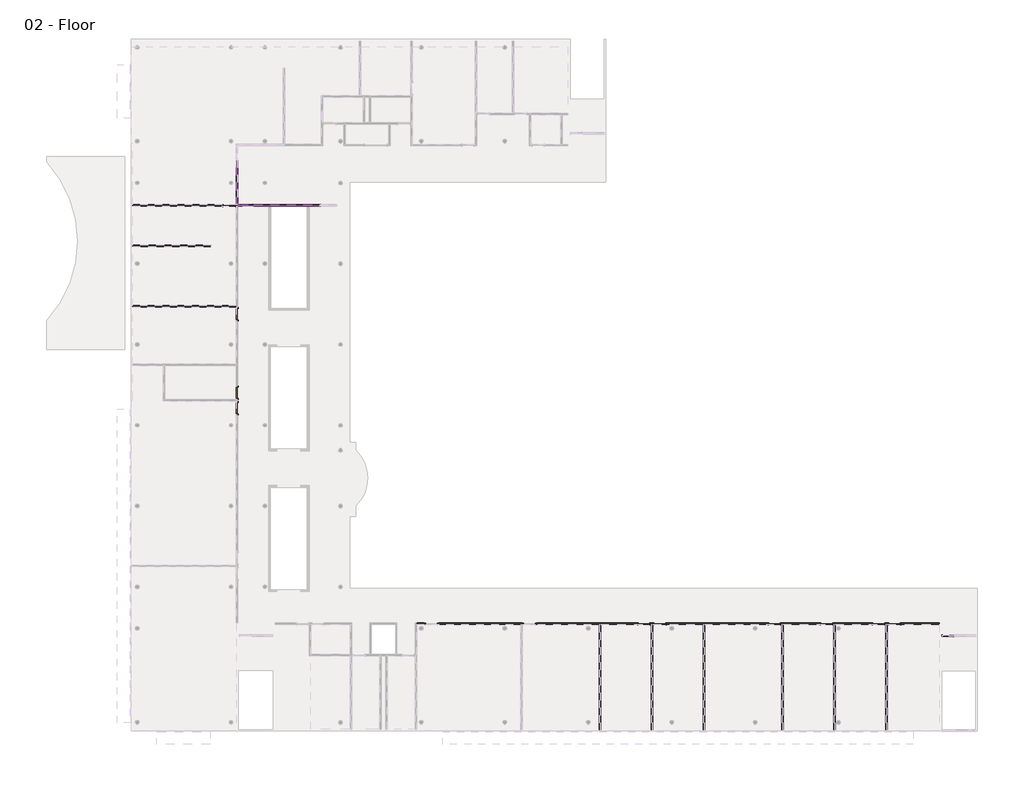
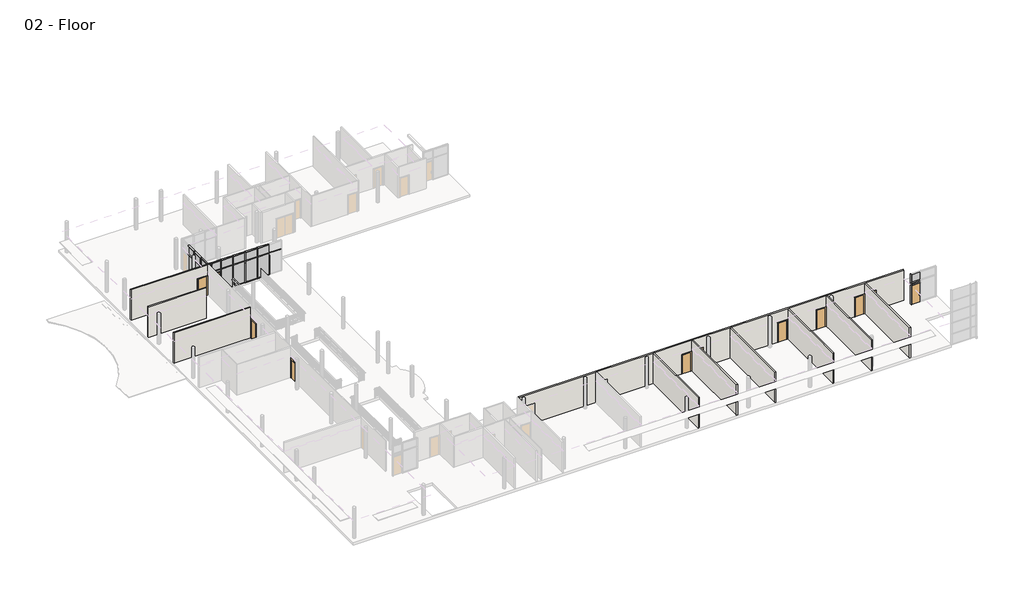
# One storey, part 2 of 5: 58 members, 20 plates, 12 doors, 10 walls.
"""IFC4 building model written with IfcOpenShell, lengths in millimetres."""

from ifc_helpers import new_model, si_unit, frame, origin, place, context, project, spatial, polyline, outline, extrude, faceted_brep, transform, mapped, element, save
from components import curtain_wall_sgl_glass_curtain_wall_sgl_glass_ab2568d1, curtain_wall_sgl_glass_curtain_wall_sgl_glass_c2d4b377, door_305aa2a5, door_e5f9f3c4, member_18e22e2d, member_9193c932, member_28f0a790, member_2c3f20f2, member_9aff912a, member_69c8e218, member_e80433b6, member_c4de40ee, member_a715cb85, member_410c6227, member_73c23c35, member_6186cc23, member_5d67b9fc, member_c327c56d, member_a50b3cda, member_dd5c6200, member_38b8e9cb, system_panel_glazed_8c2c847a, system_panel_glazed_f4c55b59, system_panel_glazed_5b8ca2f9, system_panel_glazed_63e32c76, system_panel_glazed_72fe8651, system_panel_glazed_06645575, system_panel_glazed_b962cb7b, system_panel_glazed_4de51809, system_panel_glazed_1fc46e14, system_panel_glazed_011a4f1d

model = new_model("IFC4")

# Units and contexts
model_context = context("Model", 3, world=origin())
ifc_project = project(units=[si_unit("LENGTHUNIT", "METRE", prefix="MILLI")], contexts=[model_context])

# Site, building, storey
site = spatial("IfcSite", under=ifc_project)
building = spatial("IfcBuilding", under=site)
storey = spatial("IfcBuildingStorey", under=building, Name="02 - Floor", Elevation=3657.6)

# Doors
placement = place(None, origin())
curtain_wall_sgl_glass_curtain_wall_sgl_glass_shape = curtain_wall_sgl_glass_curtain_wall_sgl_glass_ab2568d1(model_context)
element("IfcDoor", 1, ObjectType="Curtain Wall Sgl Glass : Curtain Wall Sgl Glass", at=placement, inside=storey, context=model_context, shape_type="MappedRepresentation", body=[
    mapped(curtain_wall_sgl_glass_curtain_wall_sgl_glass_shape, transform((63869.2207476, 7356.4, 3657.6), x_axis=(-1.0, 0.0, 0.0), y_axis=(0.0, -1.0, 0.0), z_axis=(0.0, 0.0, 1.0))),
])
curtain_wall_sgl_glass_curtain_wall_sgl_glass_2_shape = curtain_wall_sgl_glass_curtain_wall_sgl_glass_c2d4b377(model_context)
element("IfcDoor", 2, ObjectType="Curtain Wall Sgl Glass : Curtain Wall Sgl Glass", at=placement, inside=storey, context=model_context, shape_type="MappedRepresentation", body=[
    mapped(curtain_wall_sgl_glass_curtain_wall_sgl_glass_2_shape, transform((9279.6358763, 40897.1, 3657.6), x_axis=(-1.0, 0.0, 0.0), y_axis=(0.0, -1.0, 0.0), z_axis=(0.0, 0.0, 1.0))),
])
door_shape = door_305aa2a5(model_context)
element("IfcDoor", 3, ObjectType="Single-Flush : 36\" x 84\"", at=placement, inside=storey, context=model_context, shape_type="MappedRepresentation", body=[
    mapped(door_shape, transform((8427.3707476, 26304.8, 3657.6), x_axis=(0.0, -1.0, 0.0), y_axis=(1.0, 0.0, 0.0), z_axis=(0.0, 0.0, 1.0))),
])
element("IfcDoor", 4, ObjectType="Single-Flush : 36\" x 84\"", at=placement, inside=storey, context=model_context, shape_type="MappedRepresentation", body=[
    mapped(door_shape, transform((40145.6207476, 8277.15, 3657.6), x_axis=(1.0, 0.0, 0.0), y_axis=(0.0, 1.0, 0.0), z_axis=(0.0, 0.0, 1.0))),
])
element("IfcDoor", 5, ObjectType="Single-Flush : 36\" x 84\"", at=placement, inside=storey, context=model_context, shape_type="MappedRepresentation", body=[
    mapped(door_shape, transform((50305.6207476, 8277.15, 3657.6), x_axis=(1.0, 0.0, 0.0), y_axis=(0.0, 1.0, 0.0), z_axis=(0.0, 0.0, 1.0))),
])
element("IfcDoor", 6, ObjectType="Single-Flush : 36\" x 84\"", at=placement, inside=storey, context=model_context, shape_type="MappedRepresentation", body=[
    mapped(door_shape, transform((58433.6207476, 8277.15, 3657.6), x_axis=(1.0, 0.0, 0.0), y_axis=(0.0, 1.0, 0.0), z_axis=(0.0, 0.0, 1.0))),
])
element("IfcDoor", 7, ObjectType="Single-Flush : 36\" x 84\"", at=placement, inside=storey, context=model_context, shape_type="MappedRepresentation", body=[
    mapped(door_shape, transform((54369.6207476, 8277.15, 3657.6), x_axis=(1.0, 0.0, 0.0), y_axis=(0.0, 1.0, 0.0), z_axis=(0.0, 0.0, 1.0))),
])
element("IfcDoor", 8, ObjectType="Single-Flush : 36\" x 84\"", at=placement, inside=storey, context=model_context, shape_type="MappedRepresentation", body=[
    mapped(door_shape, transform((7811.4207476, 40897.1, 3657.6), x_axis=(1.0, 0.0, 0.0), y_axis=(0.0, 1.0, 0.0), z_axis=(0.0, 0.0, 1.0))),
])
door_2_shape = door_e5f9f3c4(model_context)
element("IfcDoor", 9, ObjectType="Single-Flush : 36\" x 84\"", at=placement, inside=storey, context=model_context, shape_type="MappedRepresentation", body=[
    mapped(door_2_shape, transform((8427.3707476, 32413.5, 3657.6), x_axis=(0.0, 1.0, 0.0), y_axis=(-1.0, 0.0, 0.0), z_axis=(0.0, 0.0, 1.0))),
])
element("IfcDoor", 10, ObjectType="Single-Flush : 36\" x 84\"", at=placement, inside=storey, context=model_context, shape_type="MappedRepresentation", body=[
    mapped(door_2_shape, transform((8427.3707476, 25085.6, 3657.6), x_axis=(0.0, 1.0, 0.0), y_axis=(-1.0, 0.0, 0.0), z_axis=(0.0, 0.0, 1.0))),
])
element("IfcDoor", 11, ObjectType="Single-Flush : 36\" x 84\"", at=placement, inside=storey, context=model_context, shape_type="MappedRepresentation", body=[
    mapped(door_2_shape, transform((41364.8207476, 8277.15, 3657.6), x_axis=(-1.0, 0.0, 0.0), y_axis=(0.0, -1.0, 0.0), z_axis=(0.0, 0.0, 1.0))),
])
element("IfcDoor", 12, ObjectType="Single-Flush : 36\" x 84\"", at=placement, inside=storey, context=model_context, shape_type="MappedRepresentation", body=[
    mapped(door_2_shape, transform((59652.8207476, 8277.15, 3657.6), x_axis=(-1.0, 0.0, 0.0), y_axis=(0.0, -1.0, 0.0), z_axis=(0.0, 0.0, 1.0))),
])

# Members
member_shape = member_18e22e2d(model_context)
element("IfcMember", 13, ObjectType="Rectangular Mullion : 2.5\" x 5\" rectangular", at=placement, inside=storey, context=model_context, shape_type="MappedRepresentation", body=[
    mapped(member_shape, transform((13620.7812623, 40897.1, 6096.0), x_axis=(-1.0, 0.0, 0.0), y_axis=(0.0, 1.0, 0.0), z_axis=(0.0, 0.0, -1.0))),
])
element("IfcMember", 14, ObjectType="Rectangular Mullion : 2.5\" x 5\" rectangular", at=placement, inside=storey, context=model_context, shape_type="MappedRepresentation", body=[
    mapped(member_shape, transform((12336.7161336, 40897.1, 6096.0), x_axis=(-1.0, 0.0, 0.0), y_axis=(0.0, 1.0, 0.0), z_axis=(0.0, 0.0, -1.0))),
])
element("IfcMember", 15, ObjectType="Rectangular Mullion : 2.5\" x 5\" rectangular", at=placement, inside=storey, context=model_context, shape_type="MappedRepresentation", body=[
    mapped(member_shape, transform((11052.651005, 40897.1, 6096.0), x_axis=(-1.0, 0.0, 0.0), y_axis=(0.0, 1.0, 0.0), z_axis=(0.0, 0.0, -1.0))),
])
element("IfcMember", 16, ObjectType="Rectangular Mullion : 2.5\" x 5\" rectangular", at=placement, inside=storey, context=model_context, shape_type="MappedRepresentation", body=[
    mapped(member_shape, transform((9768.5858763, 40897.1, 6096.0), x_axis=(-1.0, 0.0, 0.0), y_axis=(0.0, 1.0, 0.0), z_axis=(0.0, 0.0, -1.0))),
])
element("IfcMember", 17, ObjectType="Rectangular Mullion : 2.5\" x 5\" rectangular", at=placement, inside=storey, context=model_context, shape_type="MappedRepresentation", body=[
    mapped(member_shape, transform((8421.0207476, 43284.7, 6096.0), x_axis=(0.0, -1.0, 0.0), y_axis=(-1.0, 0.0, 0.0), z_axis=(0.0, 0.0, -1.0))),
])
element("IfcMember", 18, ObjectType="Rectangular Mullion : 2.5\" x 5\" rectangular", at=placement, inside=storey, context=model_context, shape_type="MappedRepresentation", body=[
    mapped(member_shape, transform((8421.0207476, 42122.65, 6096.0), x_axis=(0.0, -1.0, 0.0), y_axis=(-1.0, 0.0, 0.0), z_axis=(0.0, 0.0, -1.0))),
])
element("IfcMember", 19, ObjectType="Rectangular Mullion : 2.5\" x 5\" rectangular", at=placement, inside=storey, context=model_context, shape_type="MappedRepresentation", body=[
    mapped(member_shape, transform((8790.6858763, 40897.1, 6096.0), x_axis=(-1.0, 0.0, 0.0), y_axis=(0.0, 1.0, 0.0), z_axis=(0.0, 0.0, -1.0))),
])
member_2_shape = member_9193c932(model_context)
element("IfcMember", 20, ObjectType="Rectangular Mullion : 2.5\" x 5\" rectangular", at=placement, inside=storey, context=model_context, shape_type="MappedRepresentation", body=[
    mapped(member_2_shape, transform((63348.5207476, 7356.4, 7061.2), x_axis=(-1.0, 0.0, 0.0), y_axis=(0.0, -1.0, 0.0), z_axis=(0.0, 0.0, 1.0))),
])
element("IfcMember", 21, ObjectType="Rectangular Mullion : 2.5\" x 5\" rectangular", at=placement, inside=storey, context=model_context, shape_type="MappedRepresentation", body=[
    mapped(member_2_shape, transform((8484.5207476, 40897.1, 6096.0), x_axis=(-1.0, 0.0, 0.0), y_axis=(0.0, 1.0, 0.0), z_axis=(0.0, 0.0, -1.0))),
])
element("IfcMember", 22, ObjectType="Rectangular Mullion : 2.5\" x 5\" rectangular", at=placement, inside=storey, context=model_context, shape_type="MappedRepresentation", body=[
    mapped(member_2_shape, transform((8421.0207476, 40960.6, 6096.0), x_axis=(0.0, -1.0, 0.0), y_axis=(-1.0, 0.0, 0.0), z_axis=(0.0, 0.0, -1.0))),
])
member_3_shape = member_28f0a790(model_context)
element("IfcMember", 23, ObjectType="Rectangular Mullion : 2.5\" x 5\" rectangular", at=placement, inside=storey, context=model_context, shape_type="MappedRepresentation", body=[
    mapped(member_3_shape, transform((13652.5312623, 40897.1, 7061.2), x_axis=(0.0, 0.0, 1.0), y_axis=(0.0, 1.0, 0.0), z_axis=(-1.0, 0.0, 0.0))),
])
element("IfcMember", 24, ObjectType="Rectangular Mullion : 2.5\" x 5\" rectangular", at=placement, inside=storey, context=model_context, shape_type="MappedRepresentation", body=[
    mapped(member_3_shape, transform((12368.4661336, 40897.1, 7061.2), x_axis=(0.0, 0.0, 1.0), y_axis=(0.0, 1.0, 0.0), z_axis=(-1.0, 0.0, 0.0))),
])
element("IfcMember", 25, ObjectType="Rectangular Mullion : 2.5\" x 5\" rectangular", at=placement, inside=storey, context=model_context, shape_type="MappedRepresentation", body=[
    mapped(member_3_shape, transform((11084.401005, 40897.1, 7061.2), x_axis=(0.0, 0.0, 1.0), y_axis=(0.0, 1.0, 0.0), z_axis=(-1.0, 0.0, 0.0))),
])
element("IfcMember", 26, ObjectType="Rectangular Mullion : 2.5\" x 5\" rectangular", at=placement, inside=storey, context=model_context, shape_type="MappedRepresentation", body=[
    mapped(member_3_shape, transform((9800.3358763, 40897.1, 7061.2), x_axis=(0.0, 0.0, 1.0), y_axis=(0.0, 1.0, 0.0), z_axis=(-1.0, 0.0, 0.0))),
])
element("IfcMember", 27, ObjectType="Rectangular Mullion : 2.5\" x 5\" rectangular", at=placement, inside=storey, context=model_context, shape_type="MappedRepresentation", body=[
    mapped(member_3_shape, transform((14873.096391, 40897.1, 3657.6), x_axis=(0.0, 0.0, -1.0), y_axis=(0.0, 1.0, 0.0), z_axis=(1.0, 0.0, 0.0))),
])
element("IfcMember", 28, ObjectType="Rectangular Mullion : 2.5\" x 5\" rectangular", at=placement, inside=storey, context=model_context, shape_type="MappedRepresentation", body=[
    mapped(member_3_shape, transform((13589.0312623, 40897.1, 3657.6), x_axis=(0.0, 0.0, -1.0), y_axis=(0.0, 1.0, 0.0), z_axis=(1.0, 0.0, 0.0))),
])
element("IfcMember", 29, ObjectType="Rectangular Mullion : 2.5\" x 5\" rectangular", at=placement, inside=storey, context=model_context, shape_type="MappedRepresentation", body=[
    mapped(member_3_shape, transform((12304.9661336, 40897.1, 3657.6), x_axis=(0.0, 0.0, -1.0), y_axis=(0.0, 1.0, 0.0), z_axis=(1.0, 0.0, 0.0))),
])
element("IfcMember", 30, ObjectType="Rectangular Mullion : 2.5\" x 5\" rectangular", at=placement, inside=storey, context=model_context, shape_type="MappedRepresentation", body=[
    mapped(member_3_shape, transform((11020.901005, 40897.1, 3657.6), x_axis=(0.0, 0.0, -1.0), y_axis=(0.0, 1.0, 0.0), z_axis=(1.0, 0.0, 0.0))),
])
member_4_shape = member_2c3f20f2(model_context)
element("IfcMember", 31, ObjectType="Rectangular Mullion : 2.5\" x 5\" rectangular", at=placement, inside=storey, context=model_context, shape_type="MappedRepresentation", body=[
    mapped(member_4_shape, transform((14936.596391, 40897.1, 6096.0), x_axis=(0.0, 0.0, 1.0), y_axis=(0.0, 1.0, 0.0), z_axis=(-1.0, 0.0, 0.0))),
])
member_5_shape = member_9aff912a(model_context)
element("IfcMember", 32, ObjectType="Rectangular Mullion : 2.5\" x 5\" rectangular", at=placement, inside=storey, context=model_context, shape_type="MappedRepresentation", body=[
    mapped(member_5_shape, transform((13652.5312623, 40897.1, 6096.0), x_axis=(0.0, 0.0, 1.0), y_axis=(0.0, 1.0, 0.0), z_axis=(-1.0, 0.0, 0.0))),
])
element("IfcMember", 33, ObjectType="Rectangular Mullion : 2.5\" x 5\" rectangular", at=placement, inside=storey, context=model_context, shape_type="MappedRepresentation", body=[
    mapped(member_5_shape, transform((12368.4661336, 40897.1, 6096.0), x_axis=(0.0, 0.0, 1.0), y_axis=(0.0, 1.0, 0.0), z_axis=(-1.0, 0.0, 0.0))),
])
element("IfcMember", 34, ObjectType="Rectangular Mullion : 2.5\" x 5\" rectangular", at=placement, inside=storey, context=model_context, shape_type="MappedRepresentation", body=[
    mapped(member_5_shape, transform((11084.401005, 40897.1, 6096.0), x_axis=(0.0, 0.0, 1.0), y_axis=(0.0, 1.0, 0.0), z_axis=(-1.0, 0.0, 0.0))),
])
element("IfcMember", 35, ObjectType="Rectangular Mullion : 2.5\" x 5\" rectangular", at=placement, inside=storey, context=model_context, shape_type="MappedRepresentation", body=[
    mapped(member_5_shape, transform((9800.3358763, 40897.1, 6096.0), x_axis=(0.0, 0.0, 1.0), y_axis=(0.0, 1.0, 0.0), z_axis=(-1.0, 0.0, 0.0))),
])
member_6_shape = member_69c8e218(model_context)
element("IfcMember", 36, ObjectType="Rectangular Mullion : 2.5\" x 5\" rectangular", at=placement, inside=storey, context=model_context, shape_type="MappedRepresentation", body=[
    mapped(member_6_shape, transform((8421.0207476, 43316.45, 7061.2), x_axis=(0.0, 0.0, 1.0), y_axis=(-1.0, 0.0, 0.0), z_axis=(0.0, -1.0, 0.0))),
])
element("IfcMember", 37, ObjectType="Rectangular Mullion : 2.5\" x 5\" rectangular", at=placement, inside=storey, context=model_context, shape_type="MappedRepresentation", body=[
    mapped(member_6_shape, transform((8421.0207476, 42154.4, 7061.2), x_axis=(0.0, 0.0, 1.0), y_axis=(-1.0, 0.0, 0.0), z_axis=(0.0, -1.0, 0.0))),
])
element("IfcMember", 38, ObjectType="Rectangular Mullion : 2.5\" x 5\" rectangular", at=placement, inside=storey, context=model_context, shape_type="MappedRepresentation", body=[
    mapped(member_6_shape, transform((8421.0207476, 43252.95, 3657.6), x_axis=(0.0, 0.0, -1.0), y_axis=(-1.0, 0.0, 0.0), z_axis=(0.0, 1.0, 0.0))),
])
member_7_shape = member_e80433b6(model_context)
element("IfcMember", 39, ObjectType="Rectangular Mullion : 2.5\" x 5\" rectangular", at=placement, inside=storey, context=model_context, shape_type="MappedRepresentation", body=[
    mapped(member_7_shape, transform((8421.0207476, 43316.45, 6096.0), x_axis=(0.0, 0.0, 1.0), y_axis=(-1.0, 0.0, 0.0), z_axis=(0.0, -1.0, 0.0))),
])
element("IfcMember", 40, ObjectType="Rectangular Mullion : 2.5\" x 5\" rectangular", at=placement, inside=storey, context=model_context, shape_type="MappedRepresentation", body=[
    mapped(member_7_shape, transform((8421.0207476, 42154.4, 6096.0), x_axis=(0.0, 0.0, 1.0), y_axis=(-1.0, 0.0, 0.0), z_axis=(0.0, -1.0, 0.0))),
])
member_8_shape = member_c4de40ee(model_context)
element("IfcMember", 41, ObjectType="Rectangular Mullion : 2.5\" x 5\" rectangular", at=placement, inside=storey, context=model_context, shape_type="MappedRepresentation", body=[
    mapped(member_8_shape, transform((8421.0207476, 41024.1, 7061.2), x_axis=(0.0, 0.0, 1.0), y_axis=(-1.0, 0.0, 0.0), z_axis=(0.0, -1.0, 0.0))),
])
element("IfcMember", 42, ObjectType="Rectangular Mullion : 2.5\" x 5\" rectangular", at=placement, inside=storey, context=model_context, shape_type="MappedRepresentation", body=[
    mapped(member_8_shape, transform((8421.0207476, 42090.9, 3657.6), x_axis=(0.0, 0.0, -1.0), y_axis=(-1.0, 0.0, 0.0), z_axis=(0.0, 1.0, 0.0))),
])
member_9_shape = member_a715cb85(model_context)
element("IfcMember", 43, ObjectType="Rectangular Mullion : 2.5\" x 5\" rectangular", at=placement, inside=storey, context=model_context, shape_type="MappedRepresentation", body=[
    mapped(member_9_shape, transform((8421.0207476, 41024.1, 6096.0), x_axis=(0.0, 0.0, 1.0), y_axis=(-1.0, 0.0, 0.0), z_axis=(0.0, -1.0, 0.0))),
])
member_10_shape = member_410c6227(model_context)
element("IfcMember", 44, ObjectType="Rectangular Mullion : 2.5\" x 5\" rectangular", at=placement, inside=storey, context=model_context, shape_type="MappedRepresentation", body=[
    mapped(member_10_shape, transform((8822.4358763, 40897.1, 6096.0), x_axis=(0.0, 0.0, 1.0), y_axis=(0.0, 1.0, 0.0), z_axis=(-1.0, 0.0, 0.0))),
])
element("IfcMember", 45, ObjectType="Rectangular Mullion : 2.5\" x 5\" rectangular", at=placement, inside=storey, context=model_context, shape_type="MappedRepresentation", body=[
    mapped(member_10_shape, transform((8822.4358763, 40897.1, 5822.95), x_axis=(0.0, 0.0, 1.0), y_axis=(0.0, 1.0, 0.0), z_axis=(-1.0, 0.0, 0.0))),
])
member_11_shape = member_73c23c35(model_context)
element("IfcMember", 46, ObjectType="Rectangular Mullion : 2.5\" x 5\" rectangular", at=placement, inside=storey, context=model_context, shape_type="MappedRepresentation", body=[
    mapped(member_11_shape, transform((8822.4358763, 40897.1, 7061.2), x_axis=(0.0, 0.0, 1.0), y_axis=(0.0, 1.0, 0.0), z_axis=(-1.0, 0.0, 0.0))),
])
member_12_shape = member_6186cc23(model_context)
element("IfcMember", 47, ObjectType="Rectangular Mullion : 2.5\" x 5\" rectangular", at=placement, inside=storey, context=model_context, shape_type="MappedRepresentation", body=[
    mapped(member_12_shape, transform((9768.5858763, 40897.1, 3657.6), x_axis=(-1.0, 0.0, 0.0), y_axis=(0.0, 1.0, 0.0), z_axis=(0.0, 0.0, -1.0))),
])
element("IfcMember", 48, ObjectType="Rectangular Mullion : 2.5\" x 5\" rectangular", at=placement, inside=storey, context=model_context, shape_type="MappedRepresentation", body=[
    mapped(member_12_shape, transform((8790.6858763, 40897.1, 3657.6), x_axis=(-1.0, 0.0, 0.0), y_axis=(0.0, 1.0, 0.0), z_axis=(0.0, 0.0, -1.0))),
])
member_13_shape = member_5d67b9fc(model_context)
element("IfcMember", 49, ObjectType="Rectangular Mullion : 2.5\" x 5\" rectangular", at=placement, inside=storey, context=model_context, shape_type="MappedRepresentation", body=[
    mapped(member_13_shape, transform((9768.5858763, 40897.1, 5822.95), x_axis=(-1.0, 0.0, 0.0), y_axis=(0.0, 1.0, 0.0), z_axis=(0.0, 0.0, -1.0))),
])
element("IfcMember", 50, ObjectType="Rectangular Mullion : 2.5\" x 5\" rectangular", at=placement, inside=storey, context=model_context, shape_type="MappedRepresentation", body=[
    mapped(member_13_shape, transform((8790.6858763, 40897.1, 5822.95), x_axis=(-1.0, 0.0, 0.0), y_axis=(0.0, 1.0, 0.0), z_axis=(0.0, 0.0, -1.0))),
])
member_14_shape = member_c327c56d(model_context)
element("IfcMember", 51, ObjectType="Rectangular Mullion : 2.5\" x 5\" rectangular", at=placement, inside=storey, context=model_context, shape_type="MappedRepresentation", body=[
    mapped(member_14_shape, transform((63348.5207476, 7356.4, 6096.0), x_axis=(-1.0, 0.0, 0.0), y_axis=(0.0, -1.0, 0.0), z_axis=(0.0, 0.0, 1.0))),
])
member_15_shape = member_a50b3cda(model_context)
element("IfcMember", 52, ObjectType="Rectangular Mullion : 2.5\" x 5\" rectangular", at=placement, inside=storey, context=model_context, shape_type="MappedRepresentation", body=[
    mapped(member_15_shape, transform((63348.5207476, 7356.4, 5822.95), x_axis=(-1.0, 0.0, 0.0), y_axis=(0.0, -1.0, 0.0), z_axis=(0.0, 0.0, 1.0))),
])
element("IfcMember", 53, ObjectType="Rectangular Mullion : 2.5\" x 5\" rectangular", at=placement, inside=storey, context=model_context, shape_type="MappedRepresentation", body=[
    mapped(member_15_shape, transform((8484.5207476, 40897.1, 3657.6), x_axis=(-1.0, 0.0, 0.0), y_axis=(0.0, 1.0, 0.0), z_axis=(0.0, 0.0, -1.0))),
])
element("IfcMember", 54, ObjectType="Rectangular Mullion : 2.5\" x 5\" rectangular", at=placement, inside=storey, context=model_context, shape_type="MappedRepresentation", body=[
    mapped(member_15_shape, transform((8421.0207476, 40960.6, 3657.6), x_axis=(0.0, -1.0, 0.0), y_axis=(-1.0, 0.0, 0.0), z_axis=(0.0, 0.0, -1.0))),
])
element("IfcMember", 55, ObjectType="Rectangular Mullion : 2.5\" x 5\" rectangular", at=placement, inside=storey, context=model_context, shape_type="MappedRepresentation", body=[
    mapped(member_14_shape, transform((8484.5207476, 40897.1, 5822.95), x_axis=(-1.0, 0.0, 0.0), y_axis=(0.0, 1.0, 0.0), z_axis=(0.0, 0.0, -1.0))),
])
element("IfcMember", 56, ObjectType="Rectangular Mullion : 2.5\" x 5\" rectangular", at=placement, inside=storey, context=model_context, shape_type="MappedRepresentation", body=[
    mapped(member_14_shape, transform((8421.0207476, 40960.6, 5822.95), x_axis=(0.0, -1.0, 0.0), y_axis=(-1.0, 0.0, 0.0), z_axis=(0.0, 0.0, -1.0))),
])
member_16_shape = member_dd5c6200(model_context)
element("IfcMember", 57, ObjectType="Rectangular Mullion : 2.5\" x 5\" rectangular", at=placement, inside=storey, context=model_context, shape_type="MappedRepresentation", body=[
    mapped(member_16_shape, transform((8548.0207476, 40897.1, 7061.2), x_axis=(0.0, 0.0, 1.0), y_axis=(0.0, 1.0, 0.0), z_axis=(-1.0, 0.0, 0.0))),
])
element("IfcMember", 58, ObjectType="Rectangular Mullion : 2.5\" x 5\" rectangular", at=placement, inside=storey, context=model_context, shape_type="MappedRepresentation", body=[
    mapped(member_16_shape, transform((8758.9358763, 40897.1, 3657.6), x_axis=(0.0, 0.0, -1.0), y_axis=(0.0, 1.0, 0.0), z_axis=(1.0, 0.0, 0.0))),
])
member_17_shape = member_38b8e9cb(model_context)
element("IfcMember", 59, ObjectType="Rectangular Mullion : 2.5\" x 5\" rectangular", at=placement, inside=storey, context=model_context, shape_type="MappedRepresentation", body=[
    mapped(member_17_shape, transform((8548.0207476, 40897.1, 6096.0), x_axis=(0.0, 0.0, 1.0), y_axis=(0.0, 1.0, 0.0), z_axis=(-1.0, 0.0, 0.0))),
])
element("IfcMember", 60, ObjectType="Rectangular Mullion : 2.5\" x 5\" rectangular", at=placement, inside=storey, context=model_context, shape_type="MappedRepresentation", body=[
    mapped(member_12_shape, transform((14904.846391, 40897.1, 3657.6), x_axis=(-1.0, 0.0, 0.0), y_axis=(0.0, 1.0, 0.0), z_axis=(0.0, 0.0, -1.0))),
])
element("IfcMember", 61, ObjectType="Rectangular Mullion : 2.5\" x 5\" rectangular", at=placement, inside=storey, context=model_context, shape_type="MappedRepresentation", body=[
    mapped(member_12_shape, transform((13620.7812623, 40897.1, 3657.6), x_axis=(-1.0, 0.0, 0.0), y_axis=(0.0, 1.0, 0.0), z_axis=(0.0, 0.0, -1.0))),
])
element("IfcMember", 62, ObjectType="Rectangular Mullion : 2.5\" x 5\" rectangular", at=placement, inside=storey, context=model_context, shape_type="MappedRepresentation", body=[
    mapped(member_12_shape, transform((12336.7161336, 40897.1, 3657.6), x_axis=(-1.0, 0.0, 0.0), y_axis=(0.0, 1.0, 0.0), z_axis=(0.0, 0.0, -1.0))),
])
element("IfcMember", 63, ObjectType="Rectangular Mullion : 2.5\" x 5\" rectangular", at=placement, inside=storey, context=model_context, shape_type="MappedRepresentation", body=[
    mapped(member_12_shape, transform((11052.651005, 40897.1, 3657.6), x_axis=(-1.0, 0.0, 0.0), y_axis=(0.0, 1.0, 0.0), z_axis=(0.0, 0.0, -1.0))),
])
element("IfcMember", 64, ObjectType="Rectangular Mullion : 2.5\" x 5\" rectangular", at=placement, inside=storey, context=model_context, shape_type="MappedRepresentation", body=[
    mapped(member_12_shape, transform((8421.0207476, 43284.7, 3657.6), x_axis=(0.0, -1.0, 0.0), y_axis=(-1.0, 0.0, 0.0), z_axis=(0.0, 0.0, -1.0))),
])
element("IfcMember", 65, ObjectType="Rectangular Mullion : 2.5\" x 5\" rectangular", at=placement, inside=storey, context=model_context, shape_type="MappedRepresentation", body=[
    mapped(member_12_shape, transform((8421.0207476, 42122.65, 3657.6), x_axis=(0.0, -1.0, 0.0), y_axis=(-1.0, 0.0, 0.0), z_axis=(0.0, 0.0, -1.0))),
])
element("IfcMember", 66, ObjectType="Rectangular Mullion : 2.5\" x 5\" rectangular", at=placement, inside=storey, context=model_context, shape_type="MappedRepresentation", body=[
    mapped(member_13_shape, transform((13620.7812623, 40897.1, 5822.95), x_axis=(-1.0, 0.0, 0.0), y_axis=(0.0, 1.0, 0.0), z_axis=(0.0, 0.0, -1.0))),
])
element("IfcMember", 67, ObjectType="Rectangular Mullion : 2.5\" x 5\" rectangular", at=placement, inside=storey, context=model_context, shape_type="MappedRepresentation", body=[
    mapped(member_13_shape, transform((12336.7161336, 40897.1, 5822.95), x_axis=(-1.0, 0.0, 0.0), y_axis=(0.0, 1.0, 0.0), z_axis=(0.0, 0.0, -1.0))),
])
element("IfcMember", 68, ObjectType="Rectangular Mullion : 2.5\" x 5\" rectangular", at=placement, inside=storey, context=model_context, shape_type="MappedRepresentation", body=[
    mapped(member_13_shape, transform((11052.651005, 40897.1, 5822.95), x_axis=(-1.0, 0.0, 0.0), y_axis=(0.0, 1.0, 0.0), z_axis=(0.0, 0.0, -1.0))),
])
element("IfcMember", 69, ObjectType="Rectangular Mullion : 2.5\" x 5\" rectangular", at=placement, inside=storey, context=model_context, shape_type="MappedRepresentation", body=[
    mapped(member_13_shape, transform((8421.0207476, 43284.7, 5822.95), x_axis=(0.0, -1.0, 0.0), y_axis=(-1.0, 0.0, 0.0), z_axis=(0.0, 0.0, -1.0))),
])
element("IfcMember", 70, ObjectType="Rectangular Mullion : 2.5\" x 5\" rectangular", at=placement, inside=storey, context=model_context, shape_type="MappedRepresentation", body=[
    mapped(member_13_shape, transform((8421.0207476, 42122.65, 5822.95), x_axis=(0.0, -1.0, 0.0), y_axis=(-1.0, 0.0, 0.0), z_axis=(0.0, 0.0, -1.0))),
])

# Plates
system_panel_glazed_shape = system_panel_glazed_8c2c847a(model_context)
element("IfcPlate", 71, ObjectType="System Panel : Glazed", at=placement, inside=storey, context=model_context, shape_type="MappedRepresentation", body=[
    mapped(system_panel_glazed_shape, transform((8421.0207476, 43865.725, 6127.75), x_axis=(0.0, -1.0, 0.0), y_axis=(1.0, 0.0, 0.0), z_axis=(0.0, 0.0, 1.0))),
])
element("IfcPlate", 72, ObjectType="System Panel : Glazed", at=placement, inside=storey, context=model_context, shape_type="MappedRepresentation", body=[
    mapped(system_panel_glazed_shape, transform((8421.0207476, 42703.675, 6127.75), x_axis=(0.0, -1.0, 0.0), y_axis=(1.0, 0.0, 0.0), z_axis=(0.0, 0.0, 1.0))),
])
system_panel_glazed_2_shape = system_panel_glazed_f4c55b59(model_context)
element("IfcPlate", 73, ObjectType="System Panel : Glazed", at=placement, inside=storey, context=model_context, shape_type="MappedRepresentation", body=[
    mapped(system_panel_glazed_2_shape, transform((14262.8138267, 40897.1, 6127.75), x_axis=(-1.0, 0.0, 0.0), y_axis=(0.0, -1.0, 0.0), z_axis=(0.0, 0.0, 1.0))),
])
element("IfcPlate", 74, ObjectType="System Panel : Glazed", at=placement, inside=storey, context=model_context, shape_type="MappedRepresentation", body=[
    mapped(system_panel_glazed_2_shape, transform((12978.748698, 40897.1, 6127.75), x_axis=(-1.0, 0.0, 0.0), y_axis=(0.0, -1.0, 0.0), z_axis=(0.0, 0.0, 1.0))),
])
element("IfcPlate", 75, ObjectType="System Panel : Glazed", at=placement, inside=storey, context=model_context, shape_type="MappedRepresentation", body=[
    mapped(system_panel_glazed_2_shape, transform((11694.6835693, 40897.1, 6127.75), x_axis=(-1.0, 0.0, 0.0), y_axis=(0.0, -1.0, 0.0), z_axis=(0.0, 0.0, 1.0))),
])
element("IfcPlate", 76, ObjectType="System Panel : Glazed", at=placement, inside=storey, context=model_context, shape_type="MappedRepresentation", body=[
    mapped(system_panel_glazed_2_shape, transform((10410.6184406, 40897.1, 6127.75), x_axis=(-1.0, 0.0, 0.0), y_axis=(0.0, -1.0, 0.0), z_axis=(0.0, 0.0, 1.0))),
])
system_panel_glazed_3_shape = system_panel_glazed_5b8ca2f9(model_context)
element("IfcPlate", 77, ObjectType="System Panel : Glazed", at=placement, inside=storey, context=model_context, shape_type="MappedRepresentation", body=[
    mapped(system_panel_glazed_3_shape, transform((8421.0207476, 41557.5, 6127.75), x_axis=(0.0, -1.0, 0.0), y_axis=(1.0, 0.0, 0.0), z_axis=(0.0, 0.0, 1.0))),
])
system_panel_glazed_4_shape = system_panel_glazed_63e32c76(model_context)
element("IfcPlate", 78, ObjectType="System Panel : Glazed", at=placement, inside=storey, context=model_context, shape_type="MappedRepresentation", body=[
    mapped(system_panel_glazed_4_shape, transform((9279.6358763, 40897.1, 6127.75), x_axis=(-1.0, 0.0, 0.0), y_axis=(0.0, -1.0, 0.0), z_axis=(0.0, 0.0, 1.0))),
])
element("IfcPlate", 79, ObjectType="System Panel : Glazed", at=placement, inside=storey, context=model_context, shape_type="MappedRepresentation", body=[
    mapped(system_panel_glazed_4_shape, transform((63869.2207476, 7356.4, 6127.75), x_axis=(1.0, 0.0, 0.0), y_axis=(0.0, 1.0, 0.0), z_axis=(0.0, 0.0, 1.0))),
])
system_panel_glazed_5_shape = system_panel_glazed_72fe8651(model_context)
element("IfcPlate", 80, ObjectType="System Panel : Glazed", at=placement, inside=storey, context=model_context, shape_type="MappedRepresentation", body=[
    mapped(system_panel_glazed_5_shape, transform((63869.2207476, 7356.4, 5854.7), x_axis=(1.0, 0.0, 0.0), y_axis=(0.0, 1.0, 0.0), z_axis=(0.0, 0.0, 1.0))),
])
element("IfcPlate", 81, ObjectType="System Panel : Glazed", at=placement, inside=storey, context=model_context, shape_type="MappedRepresentation", body=[
    mapped(system_panel_glazed_5_shape, transform((9279.6358763, 40897.1, 5854.7), x_axis=(-1.0, 0.0, 0.0), y_axis=(0.0, -1.0, 0.0), z_axis=(0.0, 0.0, 1.0))),
])
system_panel_glazed_6_shape = system_panel_glazed_06645575(model_context)
element("IfcPlate", 82, ObjectType="System Panel : Glazed", at=placement, inside=storey, context=model_context, shape_type="MappedRepresentation", body=[
    mapped(system_panel_glazed_6_shape, transform((8653.478312, 40897.1, 6127.75), x_axis=(-1.0, 0.0, 0.0), y_axis=(0.0, -1.0, 0.0), z_axis=(0.0, 0.0, 1.0))),
])
system_panel_glazed_7_shape = system_panel_glazed_b962cb7b(model_context)
element("IfcPlate", 83, ObjectType="System Panel : Glazed", at=placement, inside=storey, context=model_context, shape_type="MappedRepresentation", body=[
    mapped(system_panel_glazed_7_shape, transform((14262.8138267, 40897.1, 3721.1), x_axis=(-1.0, 0.0, 0.0), y_axis=(0.0, -1.0, 0.0), z_axis=(0.0, 0.0, 1.0))),
])
element("IfcPlate", 84, ObjectType="System Panel : Glazed", at=placement, inside=storey, context=model_context, shape_type="MappedRepresentation", body=[
    mapped(system_panel_glazed_7_shape, transform((12978.748698, 40897.1, 3721.1), x_axis=(-1.0, 0.0, 0.0), y_axis=(0.0, -1.0, 0.0), z_axis=(0.0, 0.0, 1.0))),
])
element("IfcPlate", 85, ObjectType="System Panel : Glazed", at=placement, inside=storey, context=model_context, shape_type="MappedRepresentation", body=[
    mapped(system_panel_glazed_7_shape, transform((11694.6835693, 40897.1, 3721.1), x_axis=(-1.0, 0.0, 0.0), y_axis=(0.0, -1.0, 0.0), z_axis=(0.0, 0.0, 1.0))),
])
element("IfcPlate", 86, ObjectType="System Panel : Glazed", at=placement, inside=storey, context=model_context, shape_type="MappedRepresentation", body=[
    mapped(system_panel_glazed_7_shape, transform((10410.6184406, 40897.1, 3721.1), x_axis=(-1.0, 0.0, 0.0), y_axis=(0.0, -1.0, 0.0), z_axis=(0.0, 0.0, 1.0))),
])
system_panel_glazed_8_shape = system_panel_glazed_4de51809(model_context)
element("IfcPlate", 87, ObjectType="System Panel : Glazed", at=placement, inside=storey, context=model_context, shape_type="MappedRepresentation", body=[
    mapped(system_panel_glazed_8_shape, transform((8653.478312, 40897.1, 3721.1), x_axis=(-1.0, 0.0, 0.0), y_axis=(0.0, -1.0, 0.0), z_axis=(0.0, 0.0, 1.0))),
])
system_panel_glazed_9_shape = system_panel_glazed_1fc46e14(model_context)
element("IfcPlate", 88, ObjectType="System Panel : Glazed", at=placement, inside=storey, context=model_context, shape_type="MappedRepresentation", body=[
    mapped(system_panel_glazed_9_shape, transform((8421.0207476, 43865.725, 3721.1), x_axis=(0.0, -1.0, 0.0), y_axis=(1.0, 0.0, 0.0), z_axis=(0.0, 0.0, 1.0))),
])
element("IfcPlate", 89, ObjectType="System Panel : Glazed", at=placement, inside=storey, context=model_context, shape_type="MappedRepresentation", body=[
    mapped(system_panel_glazed_9_shape, transform((8421.0207476, 42703.675, 3721.1), x_axis=(0.0, -1.0, 0.0), y_axis=(1.0, 0.0, 0.0), z_axis=(0.0, 0.0, 1.0))),
])
system_panel_glazed_10_shape = system_panel_glazed_011a4f1d(model_context)
element("IfcPlate", 90, ObjectType="System Panel : Glazed", at=placement, inside=storey, context=model_context, shape_type="MappedRepresentation", body=[
    mapped(system_panel_glazed_10_shape, transform((8421.0207476, 41557.5, 3721.1), x_axis=(0.0, -1.0, 0.0), y_axis=(1.0, 0.0, 0.0), z_axis=(0.0, 0.0, 1.0))),
])

# Walls
element("IfcWall", 91, ObjectType="Typ. Partition Wall", at=placement, inside=storey, context=model_context, shape_type="SweptSolid", body=[
    extrude(outline(polyline([(8370.2207476, 32965.95), (280.3207476, 32965.95), (280.3207476, 33080.25), (8370.2207476, 33080.25), (8370.2207476, 32965.95)])), frame((0.0, 0.0, 3657.6), z_axis=(0.0, 0.0, 1.0), x_axis=(1.0, 0.0, 0.0)), (0.0, 0.0, 1.0), 3403.6),
])
element("IfcWall", 92, ObjectType="Typ. Partition Wall", at=placement, inside=storey, context=model_context, shape_type="SweptSolid", body=[
    extrude(outline(polyline([(40812.3707476, 8220.0), (40812.3707476, 15.8), (40698.0707476, 15.8), (40698.0707476, 8220.0), (40812.3707476, 8220.0)])), frame((0.0, 0.0, 3657.6), z_axis=(0.0, 0.0, 1.0), x_axis=(1.0, 0.0, 0.0)), (0.0, 0.0, 1.0), 3403.6),
])
element("IfcWall", 93, ObjectType="Typ. Partition Wall", at=placement, inside=storey, context=model_context, shape_type="SweptSolid", body=[
    extrude(outline(polyline([(50972.3707476, 8220.0), (50972.3707476, 15.8), (50858.0707476, 15.8), (50858.0707476, 8220.0), (50972.3707476, 8220.0)])), frame((0.0, 0.0, 3657.6), z_axis=(0.0, 0.0, 1.0), x_axis=(1.0, 0.0, 0.0)), (0.0, 0.0, 1.0), 3403.6),
])
element("IfcWall", 94, ObjectType="Typ. Partition Wall", at=placement, inside=storey, context=model_context, shape_type="SweptSolid", body=[
    extrude(outline(polyline([(55036.3707476, 8220.0), (55036.3707476, 15.8), (54922.0707476, 15.8), (54922.0707476, 8220.0), (55036.3707476, 8220.0)])), frame((0.0, 0.0, 3657.6), z_axis=(0.0, 0.0, 1.0), x_axis=(1.0, 0.0, 0.0)), (0.0, 0.0, 1.0), 3403.6),
])
element("IfcWall", 95, ObjectType="Typ. Partition Wall", at=placement, inside=storey, context=model_context, shape_type="SweptSolid", body=[
    extrude(outline(polyline([(44876.3707476, 8220.0), (44876.3707476, 15.8), (44762.0707476, 15.8), (44762.0707476, 8220.0), (44876.3707476, 8220.0)])), frame((0.0, 0.0, 3657.6), z_axis=(0.0, 0.0, 1.0), x_axis=(1.0, 0.0, 0.0)), (0.0, 0.0, 1.0), 3403.6),
])
element("IfcWall", 96, ObjectType="Typ. Partition Wall", at=placement, inside=storey, context=model_context, shape_type="SweptSolid", body=[
    extrude(outline(polyline([(36748.3707476, 8220.0), (36748.3707476, 15.8), (36634.0707476, 15.8), (36634.0707476, 8220.0), (36748.3707476, 8220.0)])), frame((0.0, 0.0, 3657.6), z_axis=(0.0, 0.0, 1.0), x_axis=(1.0, 0.0, 0.0)), (0.0, 0.0, 1.0), 3403.6),
])
element("IfcWall", 97, ObjectType="Typ. Partition Wall", at=placement, inside=storey, context=model_context, shape_type="SweptSolid", body=[
    extrude(outline(polyline([(59100.3707476, 8220.0), (59100.3707476, 15.8), (58986.0707476, 15.8), (58986.0707476, 8220.0), (59100.3707476, 8220.0)])), frame((0.0, 0.0, 3657.6), z_axis=(0.0, 0.0, 1.0), x_axis=(1.0, 0.0, 0.0)), (0.0, 0.0, 1.0), 3403.6),
])
element("IfcWall", 98, ObjectType="Typ. Partition Wall", at=placement, inside=storey, context=model_context, shape_type="SweptSolid", body=[
    extrude(outline(polyline([(6387.9410974, 37677.65), (280.3207476, 37677.65), (280.3207476, 37791.95), (6387.9410974, 37791.95), (6387.9410974, 37677.65)])), frame((0.0, 0.0, 3657.6), z_axis=(0.0, 0.0, 1.0), x_axis=(1.0, 0.0, 0.0)), (0.0, 0.0, 1.0), 3403.6),
])
element("IfcWall", 99, ObjectType="Typ. Partition Wall", at=placement, inside=storey, context=model_context, shape_type="Brep", body=[
    faceted_brep([(8268.6207476, 40839.95, 5791.2), (8268.6207476, 40839.95, 3657.6), (8370.2207476, 40839.95, 3657.6), (8484.5207476, 40839.95, 3657.6), (8484.5207476, 40839.95, 7061.2), (8370.2207476, 40839.95, 7061.2), (280.3207476, 40839.95, 7061.2), (280.3207476, 40839.95, 3657.6), (7354.2207476, 40839.95, 3657.6), (7354.2207476, 40839.95, 5791.2), (8484.5207476, 40954.25, 3657.6), (8268.6207476, 40954.25, 3657.6), (8268.6207476, 40954.25, 5791.2), (7354.2207476, 40954.25, 5791.2), (7354.2207476, 40954.25, 3657.6), (280.3207476, 40954.25, 3657.6), (280.3207476, 40954.25, 7061.2), (8484.5207476, 40954.25, 7061.2)], [[[0, 1, 2, 3, 4, 5, 6, 7, 8, 9]], [[10, 11, 12, 13, 14, 15, 16, 17]], [[3, 2, 1, 11, 10]], [[8, 7, 15, 14]], [[7, 6, 16, 15]], [[4, 3, 10, 17]], [[6, 5, 4, 17, 16]], [[12, 11, 1, 0]], [[13, 12, 0, 9]], [[14, 13, 9, 8]]]),
])
element("IfcWall", 100, ObjectType="Typ. Partition Wall", at=placement, inside=storey, context=model_context, shape_type="Brep", body=[
    faceted_brep([(54826.8207476, 8220.0, 5791.2), (54826.8207476, 8220.0, 3657.6), (54922.0707476, 8220.0, 3657.6), (55036.3707476, 8220.0, 3657.6), (57976.4207476, 8220.0, 3657.6), (57976.4207476, 8220.0, 5791.2), (58890.8207476, 8220.0, 5791.2), (58890.8207476, 8220.0, 3657.6), (58986.0707476, 8220.0, 3657.6), (59100.3707476, 8220.0, 3657.6), (59195.6207476, 8220.0, 3657.6), (59195.6207476, 8220.0, 5791.2), (60110.0207476, 8220.0, 5791.2), (60110.0207476, 8220.0, 3657.6), (63137.3832476, 8220.0, 3657.6), (63137.3832476, 8220.0, 7061.2), (59100.3707476, 8220.0, 7061.2), (58986.0707476, 8220.0, 7061.2), (55036.3707476, 8220.0, 7061.2), (54922.0707476, 8220.0, 7061.2), (50972.3707476, 8220.0, 7061.2), (50858.0707476, 8220.0, 7061.2), (44876.3707476, 8220.0, 7061.2), (44762.0707476, 8220.0, 7061.2), (40812.3707476, 8220.0, 7061.2), (40698.0707476, 8220.0, 7061.2), (36748.3707476, 8220.0, 7061.2), (36634.0707476, 8220.0, 7061.2), (30652.3707476, 8220.0, 7061.2), (30538.0707476, 8220.0, 7061.2), (22422.7707476, 8220.0, 7061.2), (22422.7707476, 8220.0, 3657.6), (23114.9207476, 8220.0, 3657.6), (23114.9207476, 8220.0, 5791.2), (24029.3207476, 8220.0, 5791.2), (24029.3207476, 8220.0, 3657.6), (30538.0707476, 8220.0, 3657.6), (30652.3707476, 8220.0, 3657.6), (30747.6207476, 8220.0, 3657.6), (30747.6207476, 8220.0, 5791.2), (31662.0207476, 8220.0, 5791.2), (31662.0207476, 8220.0, 3657.6), (36634.0707476, 8220.0, 3657.6), (36748.3707476, 8220.0, 3657.6), (39688.4207476, 8220.0, 3657.6), (39688.4207476, 8220.0, 5791.2), (40602.8207476, 8220.0, 5791.2), (40602.8207476, 8220.0, 3657.6), (40698.0707476, 8220.0, 3657.6), (40812.3707476, 8220.0, 3657.6), (40907.6207476, 8220.0, 3657.6), (40907.6207476, 8220.0, 5791.2), (41822.0207476, 8220.0, 5791.2), (41822.0207476, 8220.0, 3657.6), (44762.0707476, 8220.0, 3657.6), (44876.3707476, 8220.0, 3657.6), (49848.4207476, 8220.0, 3657.6), (49848.4207476, 8220.0, 5791.2), (50762.8207476, 8220.0, 5791.2), (50762.8207476, 8220.0, 3657.6), (50858.0707476, 8220.0, 3657.6), (50972.3707476, 8220.0, 3657.6), (53912.4207476, 8220.0, 3657.6), (53912.4207476, 8220.0, 5791.2), (57976.4207476, 8334.3, 3657.6), (54826.8207476, 8334.3, 3657.6), (54826.8207476, 8334.3, 5791.2), (53912.4207476, 8334.3, 5791.2), (53912.4207476, 8334.3, 3657.6), (50762.8207476, 8334.3, 3657.6), (50762.8207476, 8334.3, 5791.2), (49848.4207476, 8334.3, 5791.2), (49848.4207476, 8334.3, 3657.6), (41822.0207476, 8334.3, 3657.6), (41822.0207476, 8334.3, 5791.2), (40907.6207476, 8334.3, 5791.2), (40907.6207476, 8334.3, 3657.6), (40602.8207476, 8334.3, 3657.6), (40602.8207476, 8334.3, 5791.2), (39688.4207476, 8334.3, 5791.2), (39688.4207476, 8334.3, 3657.6), (31662.0207476, 8334.3, 3657.6), (31662.0207476, 8334.3, 5791.2), (30747.6207476, 8334.3, 5791.2), (30747.6207476, 8334.3, 3657.6), (24029.3207476, 8334.3, 3657.6), (24029.3207476, 8334.3, 5791.2), (23114.9207476, 8334.3, 5791.2), (23114.9207476, 8334.3, 3657.6), (22422.7707476, 8334.3, 3657.6), (22422.7707476, 8334.3, 7061.2), (63137.3832476, 8334.3, 7061.2), (63137.3832476, 8334.3, 3657.6), (60110.0207476, 8334.3, 3657.6), (60110.0207476, 8334.3, 5791.2), (59195.6207476, 8334.3, 5791.2), (59195.6207476, 8334.3, 3657.6), (58890.8207476, 8334.3, 3657.6), (58890.8207476, 8334.3, 5791.2), (57976.4207476, 8334.3, 5791.2)], [[[0, 1, 2, 3, 4, 5, 6, 7, 8, 9, 10, 11, 12, 13, 14, 15, 16, 17, 18, 19, 20, 21, 22, 23, 24, 25, 26, 27, 28, 29, 30, 31, 32, 33, 34, 35, 36, 37, 38, 39, 40, 41, 42, 43, 44, 45, 46, 47, 48, 49, 50, 51, 52, 53, 54, 55, 56, 57, 58, 59, 60, 61, 62, 63]], [[64, 65, 66, 67, 68, 69, 70, 71, 72, 73, 74, 75, 76, 77, 78, 79, 80, 81, 82, 83, 84, 85, 86, 87, 88, 89, 90, 91, 92, 93, 94, 95, 96, 97, 98, 99]], [[89, 88, 32, 31]], [[85, 84, 38, 37, 36, 35]], [[77, 76, 50, 49, 48, 47]], [[44, 43, 42, 41, 81, 80]], [[10, 9, 8, 7, 97, 96]], [[56, 55, 54, 53, 73, 72]], [[93, 92, 14, 13]], [[4, 3, 2, 1, 65, 64]], [[62, 61, 60, 59, 69, 68]], [[30, 29, 28, 27, 26, 25, 24, 23, 22, 21, 20, 19, 18, 17, 16, 15, 91, 90]], [[15, 14, 92, 91]], [[31, 30, 90, 89]], [[33, 32, 88, 87]], [[34, 33, 87, 86]], [[35, 34, 86, 85]], [[39, 38, 84, 83]], [[40, 39, 83, 82]], [[41, 40, 82, 81]], [[78, 77, 47, 46]], [[79, 78, 46, 45]], [[80, 79, 45, 44]], [[51, 50, 76, 75]], [[52, 51, 75, 74]], [[53, 52, 74, 73]], [[70, 69, 59, 58]], [[71, 70, 58, 57]], [[72, 71, 57, 56]], [[11, 10, 96, 95]], [[12, 11, 95, 94]], [[13, 12, 94, 93]], [[98, 97, 7, 6]], [[99, 98, 6, 5]], [[64, 99, 5, 4]], [[66, 65, 1, 0]], [[67, 66, 0, 63]], [[68, 67, 63, 62]]]),
])

save(model, "model.ifc")
